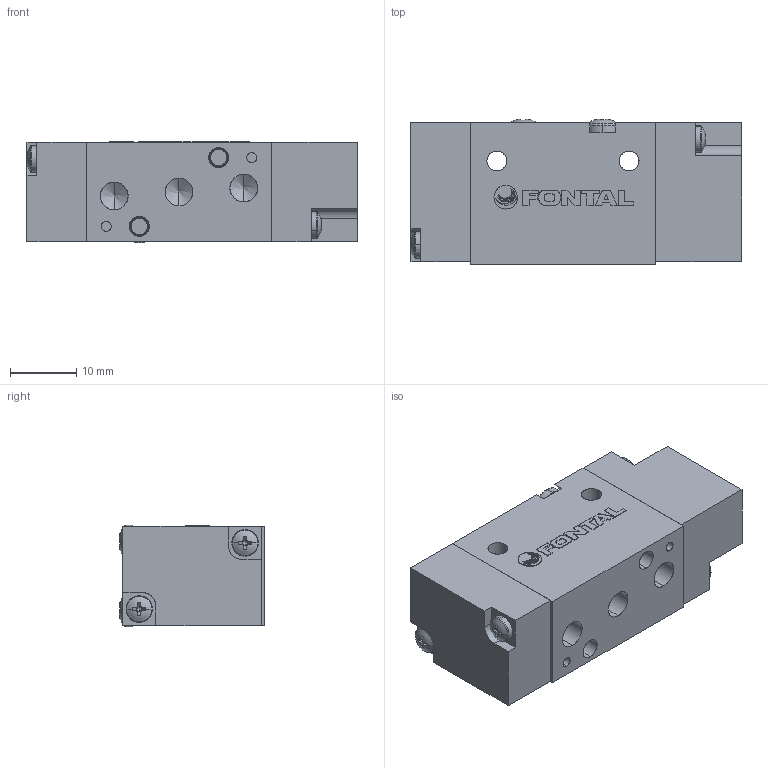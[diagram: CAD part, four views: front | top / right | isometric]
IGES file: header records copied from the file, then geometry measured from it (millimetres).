
Start section: SolidWorks IGES file using analytic representation for surfaces
Global section: file name: D:\Custom\3D繪製\VC\YC5\YCS245-M5.IGS, ; native system: SolidWorks 2014; preprocessor: SolidWorks 2014; author: Chieh_Lu; date: 160114.021625; units: millimetre
Bounding box: 50.07 x 22.05 x 15.4 mm (x, y, z)
Surface area: 8256.4 mm2 (no closed solid volume)
Topology: 0 solids, 0 shells, 438 faces, 3948 edges, 3926 vertices
Faces by surface type: bspline 265, revolution 173
